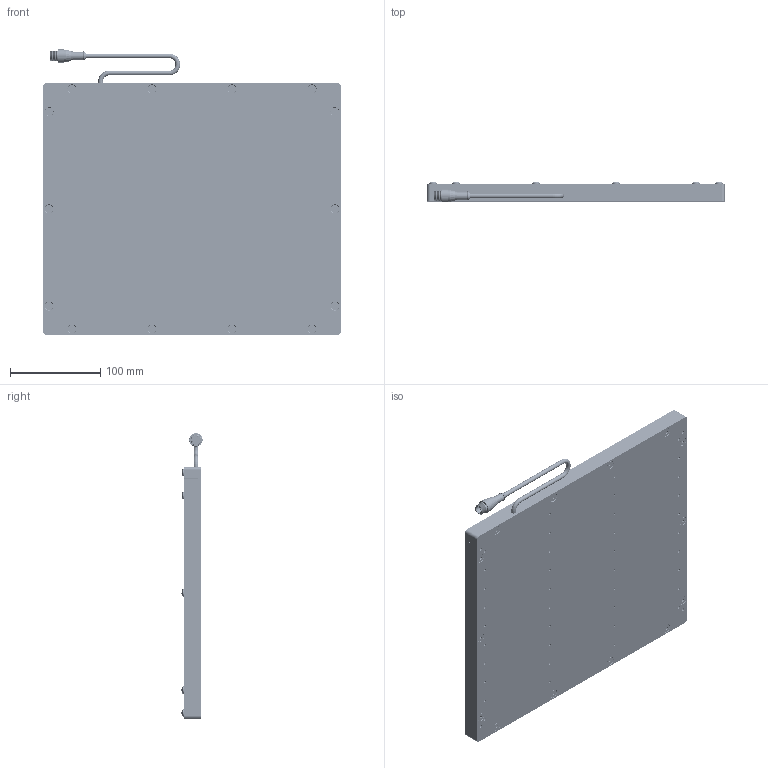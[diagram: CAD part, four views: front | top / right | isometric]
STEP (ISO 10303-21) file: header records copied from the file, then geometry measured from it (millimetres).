
FILE_DESCRIPTION (( 'STEP AP214' ), '1' );
FILE_NAME ('SBL1012-XXX.STEP', '2026-04-17T18:23:28', ( '' ), ( '' ), 'SwSTEP 2.0', 'SolidWorks 2025', '' );
FILE_SCHEMA (( 'AUTOMOTIVE_DESIGN' ));
Length unit declared in the file: inch
Products named in the file (12): MC Pigtail 24; SBL3 to 18in rail_12in rail; SBL3 to 18in rail_10in No CG; 8-32 x .375 Nylon Screw_.375" 94611A192; SC Pigtail Complete 18_5pin; BackPlate BLYYXX_1012; M12 Connector 4,5 and 8 pin_RS4.5T; SBL3 to 18in rail_12in No CG; WD-SBLYYXX_10x12 with holes; Hex Standoff .375 x 8-32; 8-32 x 0.375 FHCS (92210A192)_92210A192; SBL1012-XXX
Assembly tree (51 placements, depth 3):
  SBL1012-XXX
    BackPlate BLYYXX_1012
    SBL3 to 18in rail_12in rail
    SBL3 to 18in rail_12in No CG
    SBL3 to 18in rail_10in No CG  x2
    SC Pigtail Complete 18_5pin
      MC Pigtail 24
      M12 Connector 4,5 and 8 pin_RS4.5T
    WD-SBLYYXX_10x12 with holes
    Hex Standoff .375 x 8-32  x14
    8-32 x 0.375 FHCS (92210A192)_92210A192  x14
    8-32 x .375 Nylon Screw_.375" 94611A192  x14
Bounding box: 330.2 x 23.38 x 316.93 mm (x, y, z)
Volume: 766777.8 mm3; surface area: 466139.9 mm2
Topology: 50 solids, 50 shells, 1618 faces, 4042 edges, 2581 vertices
Faces by surface type: plane 603, bspline 378, cylinder 348, cone 243, torus 27, sphere 19
Full cylindrical faces by diameter (mm): 0.762 x5, 2.705 x40, 3.454 x18, 4.496 x42, 5.207 x3, 6.604 x8, 6.858 x14, 8.128 x14, 8.382 x1, 8.636 x1, 9.119 x14, 10.16 x1, 10.541 x1, 11.938 x1, 13.716 x2, 14.732 x1
Entity records: 19867 total; most frequent: CARTESIAN_POINT 6260, DIRECTION 2539, ORIENTED_EDGE 2128, EDGE_CURVE 1064, AXIS2_PLACEMENT_3D 1047, EDGE_LOOP 863, VERTEX_POINT 797, FACE_OUTER_BOUND 617
